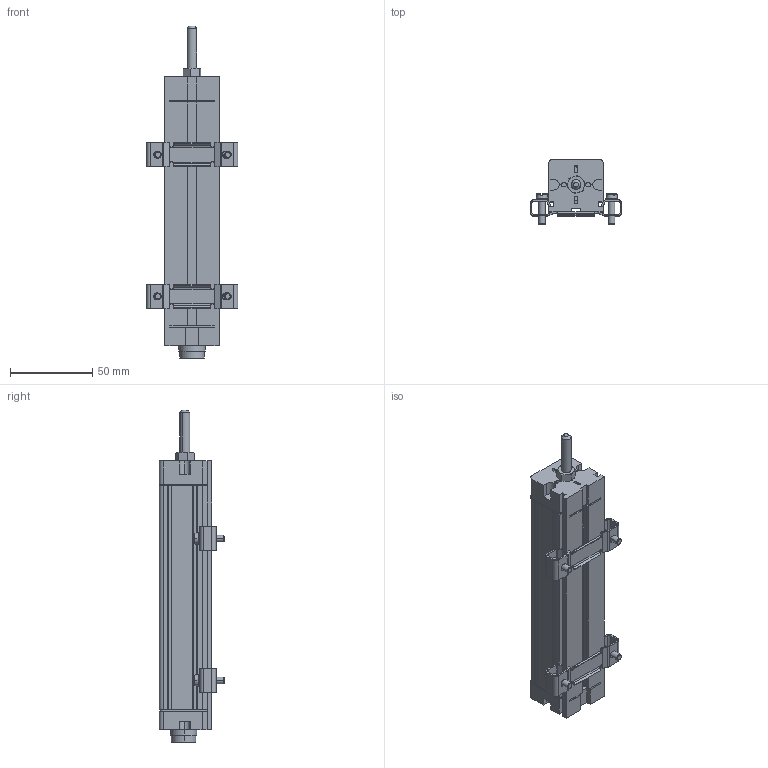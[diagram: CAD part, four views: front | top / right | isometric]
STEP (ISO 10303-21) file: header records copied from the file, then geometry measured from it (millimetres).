
FILE_DESCRIPTION(('STEP AP214'),'1');
FILE_NAME('burster_8719-5100_253enkbsga08vj8irfwqwovmw.stp','2017-04-18T17:25:03',('TraceParts'),('TraceParts S.A.'),'Spatial InterOp 3D',' ',' ');
FILE_SCHEMA(('automotive_design'));
Length unit declared in the file: millimetre
Products named in the file (1): burster_8719-5100_253enkbsga08vj8irfwqwovmw
Bounding box: 56 x 39.7 x 202.3 mm (x, y, z)
Volume: 166346.6 mm3; surface area: 38734.4 mm2
Topology: 1 solids, 2 shells, 692 faces, 1761 edges, 1056 vertices
Faces by surface type: plane 398, cylinder 202, cone 58, torus 12, bspline 12, sphere 10
Entity records: 26294 total; most frequent: CARTESIAN_POINT 3920, DIRECTION 3590, ORIENTED_EDGE 3502, EDGE_CURVE 1751, AXIS2_PLACEMENT_3D 1230, LINE 1130, VECTOR 1130, VERTEX_POINT 1056
